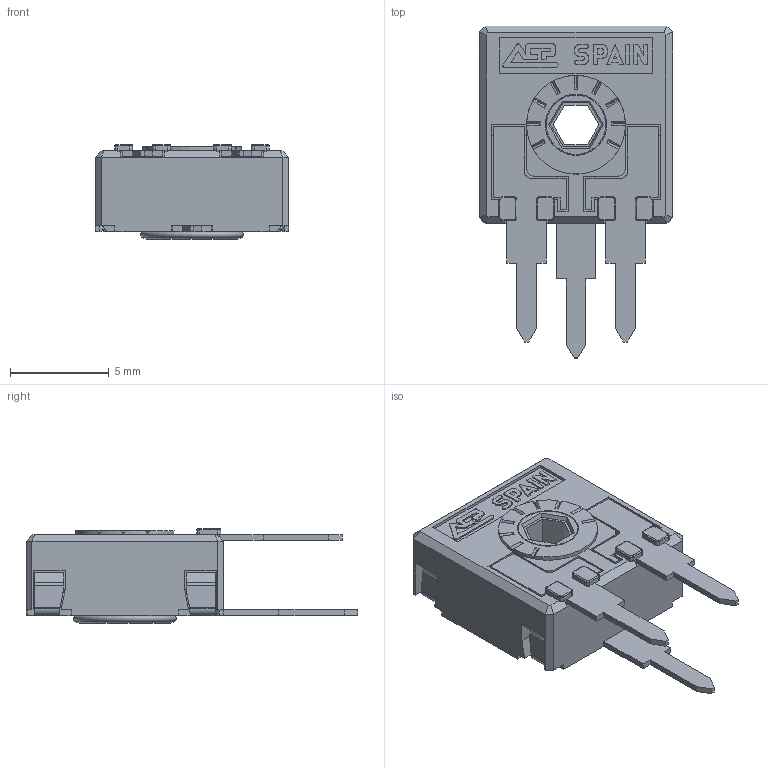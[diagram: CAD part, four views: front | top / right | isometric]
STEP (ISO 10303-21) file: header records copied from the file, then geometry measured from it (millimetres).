
FILE_DESCRIPTION(/* description */ (''),/* implementation_level */ '2;1');
FILE_NAME(/* name */ '\\SERVERACP\intercambio\Ignacio Santa Cecilia\Nueva WEB 2025\CA9 - CE9\CA9MH3,8.stp',/* time_stamp */ '2025-06-03T15:59:04+02:00',/* author */ ('CEM'),/* organization */ (''),/* preprocessor_version */ 'ST-DEVELOPER v17',/* originating_system */ 'Autodesk Inventor 2018',/* authorisation */ '');
FILE_SCHEMA (('AUTOMOTIVE_DESIGN { 1 0 10303 214 3 1 1 }'));
Length unit declared in the file: millimetre
Products named in the file (1): CA9MH3,8
Bounding box: 9.8 x 16.8 x 4.8 mm (x, y, z)
Volume: 240.6 mm3; surface area: 832.4 mm2
Topology: 2 solids, 2 shells, 595 faces, 1686 edges, 1079 vertices
Faces by surface type: plane 475, cylinder 79, torus 19, cone 16, bspline 6
Full cylindrical faces by diameter (mm): 3 x1, 3.1 x1, 4 x1, 4.8 x1, 5 x1
Entity records: 19374 total; most frequent: CARTESIAN_POINT 3569, ORIENTED_EDGE 3372, DIRECTION 3100, EDGE_CURVE 1686, LINE 1376, VECTOR 1376, VERTEX_POINT 1079, AXIS2_PLACEMENT_3D 862
